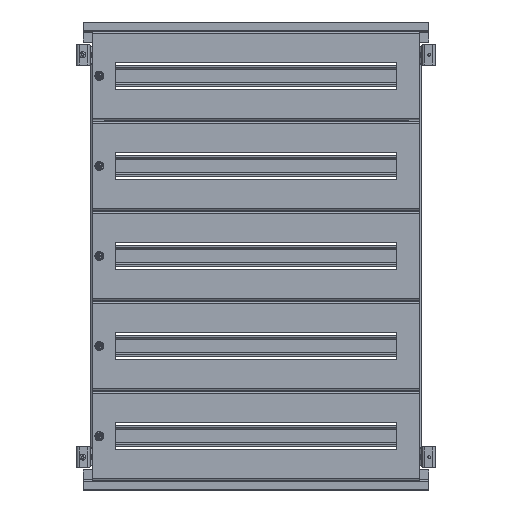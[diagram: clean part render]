
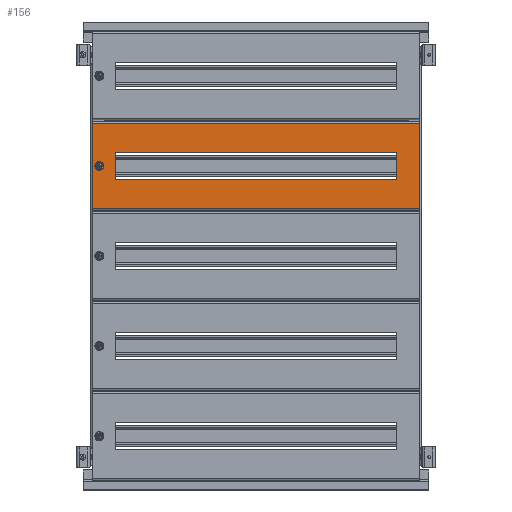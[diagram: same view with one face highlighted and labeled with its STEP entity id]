
A CAD part, top view. The second image highlights one B-rep face of the part: STEP entity #156.
In plain terms, the highlighted planar face has unit normal (0, 0, 1).
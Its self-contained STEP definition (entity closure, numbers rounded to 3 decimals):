
#156 = ADVANCED_FACE ( 'NONE', ( #20765, #9348, #7753 ), #19056, .F. ) ;
#509 = VERTEX_POINT ( 'NONE', #16912 ) ;
#643 = DIRECTION ( 'NONE',  ( -1., 0., 0. ) ) ;
#681 = CARTESIAN_POINT ( 'NONE',  ( -265.55, 0., 0. ) ) ;
#852 = CARTESIAN_POINT ( 'NONE',  ( -234., 23., 0. ) ) ;
#967 = VECTOR ( 'NONE', #2011, 1000. ) ;
#1230 = CARTESIAN_POINT ( 'NONE',  ( -234., -23., 0. ) ) ;
#1330 = VECTOR ( 'NONE', #19359, 1000. ) ;
#2011 = DIRECTION ( 'NONE',  ( -1., 0., 0. ) ) ;
#2100 = AXIS2_PLACEMENT_3D ( 'NONE', #16111, #17279, #18887 ) ;
#2760 = VERTEX_POINT ( 'NONE', #681 ) ;
#2998 = VECTOR ( 'NONE', #10768, 1000. ) ;
#3054 = LINE ( 'NONE', #17976, #4709 ) ;
#3211 = ORIENTED_EDGE ( 'NONE', *, *, #15507, .F. ) ;
#3984 = AXIS2_PLACEMENT_3D ( 'NONE', #14053, #18950, #4334 ) ;
#4334 = DIRECTION ( 'NONE',  ( -1., 0., 0. ) ) ;
#4709 = VECTOR ( 'NONE', #7969, 1000. ) ;
#5037 = LINE ( 'NONE', #8452, #13706 ) ;
#5166 = CIRCLE ( 'NONE', #2100, 4.5 ) ;
#5426 = VECTOR ( 'NONE', #7744, 1000. ) ;
#5586 = ORIENTED_EDGE ( 'NONE', *, *, #20766, .T. ) ;
#5798 = ORIENTED_EDGE ( 'NONE', *, *, #6984, .F. ) ;
#5903 = VERTEX_POINT ( 'NONE', #14126 ) ;
#6242 = CARTESIAN_POINT ( 'NONE',  ( -234., 23., 0. ) ) ;
#6448 = ORIENTED_EDGE ( 'NONE', *, *, #8076, .F. ) ;
#6475 = CARTESIAN_POINT ( 'NONE',  ( -234., -23., 0. ) ) ;
#6508 = CARTESIAN_POINT ( 'NONE',  ( 272.5, -71.3, 0. ) ) ;
#6541 = ORIENTED_EDGE ( 'NONE', *, *, #9580, .F. ) ;
#6722 = CARTESIAN_POINT ( 'NONE',  ( 272.5, 71.3, 0. ) ) ;
#6889 = DIRECTION ( 'NONE',  ( 0., 0., 1. ) ) ;
#6984 = EDGE_CURVE ( 'NONE', #2760, #16653, #5166, .T. ) ;
#7744 = DIRECTION ( 'NONE',  ( 0., -1., 0. ) ) ;
#7753 = FACE_OUTER_BOUND ( 'NONE', #19628, .T. ) ;
#7794 = CARTESIAN_POINT ( 'NONE',  ( -256.55, 0., 0. ) ) ;
#7969 = DIRECTION ( 'NONE',  ( 1., 0., 0. ) ) ;
#8076 = EDGE_CURVE ( 'NONE', #15453, #5903, #5037, .T. ) ;
#8108 = ORIENTED_EDGE ( 'NONE', *, *, #20582, .T. ) ;
#8272 = ORIENTED_EDGE ( 'NONE', *, *, #18381, .T. ) ;
#8452 = CARTESIAN_POINT ( 'NONE',  ( 234., -23., 0. ) ) ;
#9009 = AXIS2_PLACEMENT_3D ( 'NONE', #18072, #6889, #14859 ) ;
#9348 = FACE_BOUND ( 'NONE', #20547, .T. ) ;
#9580 = EDGE_CURVE ( 'NONE', #18990, #509, #15836, .T. ) ;
#9617 = EDGE_CURVE ( 'NONE', #509, #15453, #18181, .T. ) ;
#10117 = EDGE_LOOP ( 'NONE', ( #16917, #6448, #14930, #6541 ) ) ;
#10562 = CARTESIAN_POINT ( 'NONE',  ( -272.5, -71.3, 0. ) ) ;
#10595 = CARTESIAN_POINT ( 'NONE',  ( -272.5, 71.3, 0. ) ) ;
#10768 = DIRECTION ( 'NONE',  ( 0., -1., 0. ) ) ;
#11848 = VECTOR ( 'NONE', #643, 1000. ) ;
#11919 = VECTOR ( 'NONE', #15024, 1000. ) ;
#12161 = CARTESIAN_POINT ( 'NONE',  ( -272.5, -73.5, 0. ) ) ;
#12768 = VERTEX_POINT ( 'NONE', #10562 ) ;
#12793 = VERTEX_POINT ( 'NONE', #18968 ) ;
#12920 = VERTEX_POINT ( 'NONE', #6508 ) ;
#13417 = CARTESIAN_POINT ( 'NONE',  ( 272.5, -73.5, 0. ) ) ;
#13706 = VECTOR ( 'NONE', #14845, 1000. ) ;
#14053 = CARTESIAN_POINT ( 'NONE',  ( 0., 0., 0. ) ) ;
#14126 = CARTESIAN_POINT ( 'NONE',  ( 234., 23., 0. ) ) ;
#14218 = CARTESIAN_POINT ( 'NONE',  ( 234., -23., 0. ) ) ;
#14450 = ORIENTED_EDGE ( 'NONE', *, *, #20264, .T. ) ;
#14845 = DIRECTION ( 'NONE',  ( 0., 1., 0. ) ) ;
#14859 = DIRECTION ( 'NONE',  ( 1., 0., 0. ) ) ;
#14930 = ORIENTED_EDGE ( 'NONE', *, *, #9617, .F. ) ;
#15024 = DIRECTION ( 'NONE',  ( 0., 1., 0. ) ) ;
#15453 = VERTEX_POINT ( 'NONE', #14218 ) ;
#15507 = EDGE_CURVE ( 'NONE', #16653, #2760, #18193, .T. ) ;
#15836 = LINE ( 'NONE', #1230, #5426 ) ;
#16111 = CARTESIAN_POINT ( 'NONE',  ( -261.05, 0., 0. ) ) ;
#16617 = LINE ( 'NONE', #6722, #967 ) ;
#16653 = VERTEX_POINT ( 'NONE', #7794 ) ;
#16832 = LINE ( 'NONE', #13417, #11919 ) ;
#16912 = CARTESIAN_POINT ( 'NONE',  ( -234., -23., 0. ) ) ;
#16917 = ORIENTED_EDGE ( 'NONE', *, *, #18417, .F. ) ;
#17279 = DIRECTION ( 'NONE',  ( 0., 0., 1. ) ) ;
#17942 = VERTEX_POINT ( 'NONE', #10595 ) ;
#17976 = CARTESIAN_POINT ( 'NONE',  ( -272.5, -71.3, 0. ) ) ;
#18072 = CARTESIAN_POINT ( 'NONE',  ( -261.05, 0., 0. ) ) ;
#18181 = LINE ( 'NONE', #6475, #1330 ) ;
#18193 = CIRCLE ( 'NONE', #9009, 4.5 ) ;
#18381 = EDGE_CURVE ( 'NONE', #17942, #12768, #20182, .T. ) ;
#18417 = EDGE_CURVE ( 'NONE', #5903, #18990, #18870, .T. ) ;
#18870 = LINE ( 'NONE', #852, #11848 ) ;
#18887 = DIRECTION ( 'NONE',  ( 1., 0., 0. ) ) ;
#18950 = DIRECTION ( 'NONE',  ( 0., 0., -1. ) ) ;
#18968 = CARTESIAN_POINT ( 'NONE',  ( 272.5, 71.3, 0. ) ) ;
#18990 = VERTEX_POINT ( 'NONE', #6242 ) ;
#19056 = PLANE ( 'NONE',  #3984 ) ;
#19359 = DIRECTION ( 'NONE',  ( 1., 0., 0. ) ) ;
#19628 = EDGE_LOOP ( 'NONE', ( #5586, #8108, #14450, #8272 ) ) ;
#20182 = LINE ( 'NONE', #12161, #2998 ) ;
#20264 = EDGE_CURVE ( 'NONE', #12793, #17942, #16617, .T. ) ;
#20547 = EDGE_LOOP ( 'NONE', ( #3211, #5798 ) ) ;
#20582 = EDGE_CURVE ( 'NONE', #12920, #12793, #16832, .T. ) ;
#20765 = FACE_BOUND ( 'NONE', #10117, .T. ) ;
#20766 = EDGE_CURVE ( 'NONE', #12768, #12920, #3054, .T. ) ;
